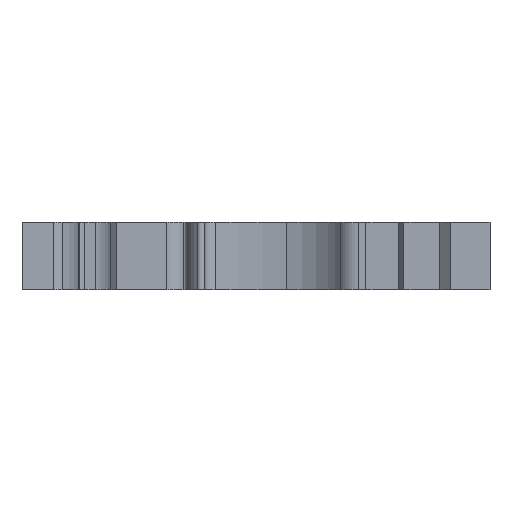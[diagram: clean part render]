
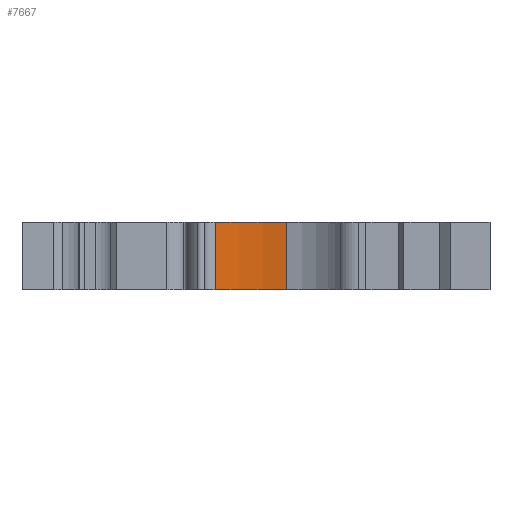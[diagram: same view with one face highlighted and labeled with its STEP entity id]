
A CAD part, front view. The second image highlights one B-rep face of the part: STEP entity #7667.
In plain terms, the highlighted free-form (B-spline) face has degree [2, 1] with [3, 2] control points.
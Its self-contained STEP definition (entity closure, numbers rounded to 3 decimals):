
#31 = B_SPLINE_SURFACE_WITH_KNOTS('',1,1,(
    (#32,#33)
    ,(#34,#35)),.UNSPECIFIED.,.F.,.F.,.F.,(2,2),(2,2),(-24.058,
    18.467),(-6.338,39.562),
  .PIECEWISE_BEZIER_KNOTS.);
#32 = CARTESIAN_POINT('',(43.025,13.084,0.65));
#33 = CARTESIAN_POINT('',(43.025,54.059,0.65));
#34 = CARTESIAN_POINT('',(85.55,13.084,0.65));
#35 = CARTESIAN_POINT('',(85.55,54.059,0.65));
#2404 = VERTEX_POINT('',#2405);
#2405 = CARTESIAN_POINT('',(60.615,18.367,0.65));
#2419 = ( BOUNDED_SURFACE() B_SPLINE_SURFACE(2,1,(
    (#2420,#2421)
    ,(#2422,#2423)
    ,(#2424,#2425
)),.UNSPECIFIED.,.F.,.F.,.F.) B_SPLINE_SURFACE_WITH_KNOTS((3,3),(2,2),(
    -0.121,1.384),(0.,6.15),.PIECEWISE_BEZIER_KNOTS.) 
GEOMETRIC_REPRESENTATION_ITEM() RATIONAL_B_SPLINE_SURFACE((
    (1.,1.)
    ,(0.73,0.73)
,(1.,1.))) REPRESENTATION_ITEM('') SURFACE() );
#2420 = CARTESIAN_POINT('',(59.647,17.186,0.65));
#2421 = CARTESIAN_POINT('',(59.647,17.186,-5.5));
#2422 = CARTESIAN_POINT('',(59.512,18.181,0.65));
#2423 = CARTESIAN_POINT('',(59.512,18.181,-5.5));
#2424 = CARTESIAN_POINT('',(60.615,18.367,0.65));
#2425 = CARTESIAN_POINT('',(60.615,18.367,-5.5));
#2433 = EDGE_CURVE('',#2404,#2434,#2436,.T.);
#2434 = VERTEX_POINT('',#2435);
#2435 = CARTESIAN_POINT('',(67.086,18.285,0.65));
#2436 = SURFACE_CURVE('',#2437,(#2441,#2448),.PCURVE_S1.);
#2437 = ( BOUNDED_CURVE() B_SPLINE_CURVE(2,(#2438,#2439,#2440),
.UNSPECIFIED.,.F.,.F.) B_SPLINE_CURVE_WITH_KNOTS((3,3),(1.384,
1.786),.PIECEWISE_BEZIER_KNOTS.) CURVE() 
GEOMETRIC_REPRESENTATION_ITEM() RATIONAL_B_SPLINE_CURVE((1.,
0.98,1.)) REPRESENTATION_ITEM('') );
#2438 = CARTESIAN_POINT('',(60.615,18.367,0.65));
#2439 = CARTESIAN_POINT('',(63.86,18.915,0.65));
#2440 = CARTESIAN_POINT('',(67.086,18.285,0.65));
#2441 = PCURVE('',#31,#2442);
#2442 = DEFINITIONAL_REPRESENTATION('',(#2443),#2447);
#2443 = ( BOUNDED_CURVE() B_SPLINE_CURVE(2,(#2444,#2445,#2446),
.UNSPECIFIED.,.F.,.F.) B_SPLINE_CURVE_WITH_KNOTS((3,3),(1.384,
1.786),.PIECEWISE_BEZIER_KNOTS.) CURVE() 
GEOMETRIC_REPRESENTATION_ITEM() RATIONAL_B_SPLINE_CURVE((1.,
0.98,1.)) REPRESENTATION_ITEM('') );
#2444 = CARTESIAN_POINT('',(-6.468,-0.42));
#2445 = CARTESIAN_POINT('',(-3.223,0.194));
#2446 = CARTESIAN_POINT('',(0.003,-0.512));
#2447 = ( GEOMETRIC_REPRESENTATION_CONTEXT(2) 
PARAMETRIC_REPRESENTATION_CONTEXT() REPRESENTATION_CONTEXT('2D SPACE',''
  ) );
#2448 = PCURVE('',#2449,#2456);
#2449 = ( BOUNDED_SURFACE() B_SPLINE_SURFACE(2,1,(
    (#2450,#2451)
    ,(#2452,#2453)
    ,(#2454,#2455
)),.UNSPECIFIED.,.F.,.F.,.F.) B_SPLINE_SURFACE_WITH_KNOTS((3,3),(2,2),(
    1.384,1.786),(0.,6.15),.PIECEWISE_BEZIER_KNOTS.) 
GEOMETRIC_REPRESENTATION_ITEM() RATIONAL_B_SPLINE_SURFACE((
    (1.,1.)
    ,(0.98,0.98)
,(1.,1.))) REPRESENTATION_ITEM('') SURFACE() );
#2450 = CARTESIAN_POINT('',(60.615,18.367,0.65));
#2451 = CARTESIAN_POINT('',(60.615,18.367,-5.5));
#2452 = CARTESIAN_POINT('',(63.86,18.915,0.65));
#2453 = CARTESIAN_POINT('',(63.86,18.915,-5.5));
#2454 = CARTESIAN_POINT('',(67.086,18.285,0.65));
#2455 = CARTESIAN_POINT('',(67.086,18.285,-5.5));
#2456 = DEFINITIONAL_REPRESENTATION('',(#2457),#2461);
#2457 = B_SPLINE_CURVE_WITH_KNOTS('',2,(#2458,#2459,#2460),
  .UNSPECIFIED.,.F.,.F.,(3,3),(1.384,1.786),
  .PIECEWISE_BEZIER_KNOTS.);
#2458 = CARTESIAN_POINT('',(1.384,0.));
#2459 = CARTESIAN_POINT('',(1.585,0.));
#2460 = CARTESIAN_POINT('',(1.786,0.));
#2461 = ( GEOMETRIC_REPRESENTATION_CONTEXT(2) 
PARAMETRIC_REPRESENTATION_CONTEXT() REPRESENTATION_CONTEXT('2D SPACE',''
  ) );
#2479 = ( BOUNDED_SURFACE() B_SPLINE_SURFACE(2,1,(
    (#2480,#2481)
    ,(#2482,#2483)
    ,(#2484,#2485
)),.UNSPECIFIED.,.F.,.F.,.F.) B_SPLINE_SURFACE_WITH_KNOTS((3,3),(2,2),(
    1.786,2.542),(0.,6.15),.PIECEWISE_BEZIER_KNOTS.) 
GEOMETRIC_REPRESENTATION_ITEM() RATIONAL_B_SPLINE_SURFACE((
    (1.,1.)
    ,(0.929,0.929)
,(1.,1.))) REPRESENTATION_ITEM('') SURFACE() );
#2480 = CARTESIAN_POINT('',(67.086,18.285,0.65));
#2481 = CARTESIAN_POINT('',(67.086,18.285,-5.5));
#2482 = CARTESIAN_POINT('',(70.191,17.679,0.65));
#2483 = CARTESIAN_POINT('',(70.191,17.679,-5.5));
#2484 = CARTESIAN_POINT('',(71.983,15.336,0.65));
#2485 = CARTESIAN_POINT('',(71.983,15.336,-5.5));
#3034 = B_SPLINE_SURFACE_WITH_KNOTS('',1,1,(
    (#3035,#3036)
    ,(#3037,#3038
    )),.UNSPECIFIED.,.F.,.F.,.F.,(2,2),(2,2),(50.03,
    92.555),(1.179,47.079),
  .PIECEWISE_BEZIER_KNOTS.);
#3035 = CARTESIAN_POINT('',(85.55,13.084,-5.5));
#3036 = CARTESIAN_POINT('',(85.55,54.059,-5.5));
#3037 = CARTESIAN_POINT('',(43.025,13.084,-5.5));
#3038 = CARTESIAN_POINT('',(43.025,54.059,-5.5));
#4485 = VERTEX_POINT('',#4486);
#4486 = CARTESIAN_POINT('',(67.086,18.285,-5.5));
#4507 = EDGE_CURVE('',#4508,#4485,#4510,.T.);
#4508 = VERTEX_POINT('',#4509);
#4509 = CARTESIAN_POINT('',(60.615,18.367,-5.5));
#4510 = SURFACE_CURVE('',#4511,(#4515,#4522),.PCURVE_S1.);
#4511 = ( BOUNDED_CURVE() B_SPLINE_CURVE(2,(#4512,#4513,#4514),
.UNSPECIFIED.,.F.,.F.) B_SPLINE_CURVE_WITH_KNOTS((3,3),(1.384,
1.786),.PIECEWISE_BEZIER_KNOTS.) CURVE() 
GEOMETRIC_REPRESENTATION_ITEM() RATIONAL_B_SPLINE_CURVE((1.,
0.98,1.)) REPRESENTATION_ITEM('') );
#4512 = CARTESIAN_POINT('',(60.615,18.367,-5.5));
#4513 = CARTESIAN_POINT('',(63.86,18.915,-5.5));
#4514 = CARTESIAN_POINT('',(67.086,18.285,-5.5));
#4515 = PCURVE('',#3034,#4516);
#4516 = DEFINITIONAL_REPRESENTATION('',(#4517),#4521);
#4517 = ( BOUNDED_CURVE() B_SPLINE_CURVE(2,(#4518,#4519,#4520),
.UNSPECIFIED.,.F.,.F.) B_SPLINE_CURVE_WITH_KNOTS((3,3),(1.384,
1.786),.PIECEWISE_BEZIER_KNOTS.) CURVE() 
GEOMETRIC_REPRESENTATION_ITEM() RATIONAL_B_SPLINE_CURVE((1.,
0.98,1.)) REPRESENTATION_ITEM('') );
#4518 = CARTESIAN_POINT('',(74.965,7.097));
#4519 = CARTESIAN_POINT('',(71.72,7.71));
#4520 = CARTESIAN_POINT('',(68.495,7.005));
#4521 = ( GEOMETRIC_REPRESENTATION_CONTEXT(2) 
PARAMETRIC_REPRESENTATION_CONTEXT() REPRESENTATION_CONTEXT('2D SPACE',''
  ) );
#4522 = PCURVE('',#2449,#4523);
#4523 = DEFINITIONAL_REPRESENTATION('',(#4524),#4528);
#4524 = B_SPLINE_CURVE_WITH_KNOTS('',2,(#4525,#4526,#4527),
  .UNSPECIFIED.,.F.,.F.,(3,3),(1.384,1.786),
  .PIECEWISE_BEZIER_KNOTS.);
#4525 = CARTESIAN_POINT('',(1.384,6.15));
#4526 = CARTESIAN_POINT('',(1.585,6.15));
#4527 = CARTESIAN_POINT('',(1.786,6.15));
#4528 = ( GEOMETRIC_REPRESENTATION_CONTEXT(2) 
PARAMETRIC_REPRESENTATION_CONTEXT() REPRESENTATION_CONTEXT('2D SPACE',''
  ) );
#7645 = EDGE_CURVE('',#2404,#4508,#7646,.T.);
#7646 = SURFACE_CURVE('',#7647,(#7650,#7657),.PCURVE_S1.);
#7647 = B_SPLINE_CURVE_WITH_KNOTS('',1,(#7648,#7649),.UNSPECIFIED.,.F.,
  .F.,(2,2),(0.,6.15),.PIECEWISE_BEZIER_KNOTS.);
#7648 = CARTESIAN_POINT('',(60.615,18.367,0.65));
#7649 = CARTESIAN_POINT('',(60.615,18.367,-5.5));
#7650 = PCURVE('',#2419,#7651);
#7651 = DEFINITIONAL_REPRESENTATION('',(#7652),#7656);
#7652 = B_SPLINE_CURVE_WITH_KNOTS('',2,(#7653,#7654,#7655),
  .UNSPECIFIED.,.F.,.F.,(3,3),(0.,6.15),.PIECEWISE_BEZIER_KNOTS.);
#7653 = CARTESIAN_POINT('',(1.384,0.));
#7654 = CARTESIAN_POINT('',(1.384,3.075));
#7655 = CARTESIAN_POINT('',(1.384,6.15));
#7656 = ( GEOMETRIC_REPRESENTATION_CONTEXT(2) 
PARAMETRIC_REPRESENTATION_CONTEXT() REPRESENTATION_CONTEXT('2D SPACE',''
  ) );
#7657 = PCURVE('',#2449,#7658);
#7658 = DEFINITIONAL_REPRESENTATION('',(#7659),#7663);
#7659 = B_SPLINE_CURVE_WITH_KNOTS('',2,(#7660,#7661,#7662),
  .UNSPECIFIED.,.F.,.F.,(3,3),(0.,6.15),.PIECEWISE_BEZIER_KNOTS.);
#7660 = CARTESIAN_POINT('',(1.384,0.));
#7661 = CARTESIAN_POINT('',(1.384,3.075));
#7662 = CARTESIAN_POINT('',(1.384,6.15));
#7663 = ( GEOMETRIC_REPRESENTATION_CONTEXT(2) 
PARAMETRIC_REPRESENTATION_CONTEXT() REPRESENTATION_CONTEXT('2D SPACE',''
  ) );
#7667 = ADVANCED_FACE('',(#7668),#2449,.F.);
#7668 = FACE_BOUND('',#7669,.F.);
#7669 = EDGE_LOOP('',(#7670,#7690,#7691,#7692));
#7670 = ORIENTED_EDGE('',*,*,#7671,.T.);
#7671 = EDGE_CURVE('',#2434,#4485,#7672,.T.);
#7672 = SURFACE_CURVE('',#7673,(#7676,#7683),.PCURVE_S1.);
#7673 = B_SPLINE_CURVE_WITH_KNOTS('',1,(#7674,#7675),.UNSPECIFIED.,.F.,
  .F.,(2,2),(0.,6.15),.PIECEWISE_BEZIER_KNOTS.);
#7674 = CARTESIAN_POINT('',(67.086,18.285,0.65));
#7675 = CARTESIAN_POINT('',(67.086,18.285,-5.5));
#7676 = PCURVE('',#2449,#7677);
#7677 = DEFINITIONAL_REPRESENTATION('',(#7678),#7682);
#7678 = B_SPLINE_CURVE_WITH_KNOTS('',2,(#7679,#7680,#7681),
  .UNSPECIFIED.,.F.,.F.,(3,3),(0.,6.15),.PIECEWISE_BEZIER_KNOTS.);
#7679 = CARTESIAN_POINT('',(1.786,0.));
#7680 = CARTESIAN_POINT('',(1.786,3.075));
#7681 = CARTESIAN_POINT('',(1.786,6.15));
#7682 = ( GEOMETRIC_REPRESENTATION_CONTEXT(2) 
PARAMETRIC_REPRESENTATION_CONTEXT() REPRESENTATION_CONTEXT('2D SPACE',''
  ) );
#7683 = PCURVE('',#2479,#7684);
#7684 = DEFINITIONAL_REPRESENTATION('',(#7685),#7689);
#7685 = B_SPLINE_CURVE_WITH_KNOTS('',2,(#7686,#7687,#7688),
  .UNSPECIFIED.,.F.,.F.,(3,3),(0.,6.15),.PIECEWISE_BEZIER_KNOTS.);
#7686 = CARTESIAN_POINT('',(1.786,0.));
#7687 = CARTESIAN_POINT('',(1.786,3.075));
#7688 = CARTESIAN_POINT('',(1.786,6.15));
#7689 = ( GEOMETRIC_REPRESENTATION_CONTEXT(2) 
PARAMETRIC_REPRESENTATION_CONTEXT() REPRESENTATION_CONTEXT('2D SPACE',''
  ) );
#7690 = ORIENTED_EDGE('',*,*,#4507,.F.);
#7691 = ORIENTED_EDGE('',*,*,#7645,.F.);
#7692 = ORIENTED_EDGE('',*,*,#2433,.T.);
